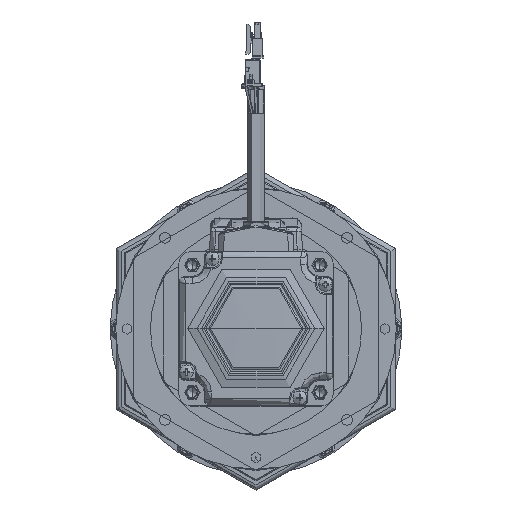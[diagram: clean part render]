
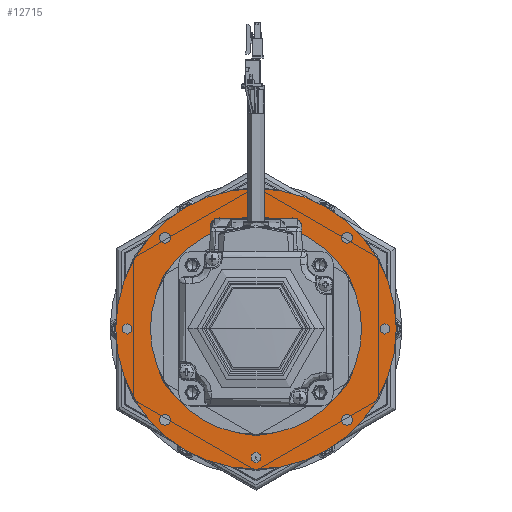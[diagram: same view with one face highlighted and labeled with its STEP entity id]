
A CAD part, top view. The second image highlights one B-rep face of the part: STEP entity #12715.
In plain terms, the highlighted planar face has unit normal (0, 0, 1) as drawn and (1, 0, 0) by its records, which use the part's own axes.
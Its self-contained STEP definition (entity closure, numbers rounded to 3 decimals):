
#10503=CARTESIAN_POINT('',(65.,0.,0.));
#10504=DIRECTION('',(-1.,0.,0.));
#10505=DIRECTION('',(0.,0.,1.));
#10506=AXIS2_PLACEMENT_3D('',#10503,#10504,#10505);
#10508=CARTESIAN_POINT('',(65.,0.,0.));
#10509=DIRECTION('',(-1.,0.,0.));
#10510=DIRECTION('',(0.,0.,-1.));
#10511=AXIS2_PLACEMENT_3D('',#10508,#10509,#10510);
#10513=CARTESIAN_POINT('',(65.,35.355,35.355));
#10514=DIRECTION('',(1.,0.,0.));
#10515=DIRECTION('',(0.,0.,-1.));
#10516=AXIS2_PLACEMENT_3D('',#10513,#10514,#10515);
#10518=CARTESIAN_POINT('',(65.,35.355,35.355));
#10519=DIRECTION('',(1.,0.,0.));
#10520=DIRECTION('',(0.,0.,1.));
#10521=AXIS2_PLACEMENT_3D('',#10518,#10519,#10520);
#10523=CARTESIAN_POINT('',(65.,0.,50.));
#10524=DIRECTION('',(1.,0.,0.));
#10525=DIRECTION('',(0.,0.,-1.));
#10526=AXIS2_PLACEMENT_3D('',#10523,#10524,#10525);
#10528=CARTESIAN_POINT('',(65.,0.,50.));
#10529=DIRECTION('',(1.,0.,0.));
#10530=DIRECTION('',(0.,0.,1.));
#10531=AXIS2_PLACEMENT_3D('',#10528,#10529,#10530);
#10533=CARTESIAN_POINT('',(65.,-35.355,35.355));
#10534=DIRECTION('',(1.,0.,0.));
#10535=DIRECTION('',(0.,0.,-1.));
#10536=AXIS2_PLACEMENT_3D('',#10533,#10534,#10535);
#10538=CARTESIAN_POINT('',(65.,-35.355,35.355));
#10539=DIRECTION('',(1.,0.,0.));
#10540=DIRECTION('',(0.,0.,1.));
#10541=AXIS2_PLACEMENT_3D('',#10538,#10539,#10540);
#10543=CARTESIAN_POINT('',(65.,-50.,0.));
#10544=DIRECTION('',(1.,0.,0.));
#10545=DIRECTION('',(0.,0.,-1.));
#10546=AXIS2_PLACEMENT_3D('',#10543,#10544,#10545);
#10548=CARTESIAN_POINT('',(65.,-50.,0.));
#10549=DIRECTION('',(1.,0.,0.));
#10550=DIRECTION('',(0.,0.,1.));
#10551=AXIS2_PLACEMENT_3D('',#10548,#10549,#10550);
#10553=CARTESIAN_POINT('',(65.,0.,-50.));
#10554=DIRECTION('',(1.,0.,0.));
#10555=DIRECTION('',(0.,0.,-1.));
#10556=AXIS2_PLACEMENT_3D('',#10553,#10554,#10555);
#10558=CARTESIAN_POINT('',(65.,0.,-50.));
#10559=DIRECTION('',(1.,0.,0.));
#10560=DIRECTION('',(0.,0.,1.));
#10561=AXIS2_PLACEMENT_3D('',#10558,#10559,#10560);
#10563=CARTESIAN_POINT('',(65.,35.355,-35.355));
#10564=DIRECTION('',(1.,0.,0.));
#10565=DIRECTION('',(0.,0.,-1.));
#10566=AXIS2_PLACEMENT_3D('',#10563,#10564,#10565);
#10568=CARTESIAN_POINT('',(65.,35.355,-35.355));
#10569=DIRECTION('',(1.,0.,0.));
#10570=DIRECTION('',(0.,0.,1.));
#10571=AXIS2_PLACEMENT_3D('',#10568,#10569,#10570);
#10573=CARTESIAN_POINT('',(65.,50.,0.));
#10574=DIRECTION('',(1.,0.,0.));
#10575=DIRECTION('',(0.,0.,-1.));
#10576=AXIS2_PLACEMENT_3D('',#10573,#10574,#10575);
#10578=CARTESIAN_POINT('',(65.,50.,0.));
#10579=DIRECTION('',(1.,0.,0.));
#10580=DIRECTION('',(0.,0.,1.));
#10581=AXIS2_PLACEMENT_3D('',#10578,#10579,#10580);
#10583=CARTESIAN_POINT('',(65.,0.,0.));
#10584=DIRECTION('',(1.,0.,0.));
#10585=DIRECTION('',(0.,0.,-1.));
#10586=AXIS2_PLACEMENT_3D('',#10583,#10584,#10585);
#10588=CARTESIAN_POINT('',(65.,0.,0.));
#10589=DIRECTION('',(1.,0.,0.));
#10590=DIRECTION('',(0.,0.,1.));
#10591=AXIS2_PLACEMENT_3D('',#10588,#10589,#10590);
#10593=CARTESIAN_POINT('',(65.,-35.355,-35.355));
#10594=DIRECTION('',(1.,0.,0.));
#10595=DIRECTION('',(0.,0.,-1.));
#10596=AXIS2_PLACEMENT_3D('',#10593,#10594,#10595);
#10598=CARTESIAN_POINT('',(65.,-35.355,-35.355));
#10599=DIRECTION('',(1.,0.,0.));
#10600=DIRECTION('',(0.,0.,1.));
#10601=AXIS2_PLACEMENT_3D('',#10598,#10599,#10600);
#11438=CARTESIAN_POINT('',(65.,0.,54.5));
#11439=CARTESIAN_POINT('',(65.,0.,-54.5));
#11440=VERTEX_POINT('',#11438);
#11441=VERTEX_POINT('',#11439);
#11442=CARTESIAN_POINT('',(65.,35.355,33.255));
#11443=CARTESIAN_POINT('',(65.,35.355,37.455));
#11444=VERTEX_POINT('',#11442);
#11445=VERTEX_POINT('',#11443);
#11446=CARTESIAN_POINT('',(65.,0.,47.9));
#11447=CARTESIAN_POINT('',(65.,0.,52.1));
#11448=VERTEX_POINT('',#11446);
#11449=VERTEX_POINT('',#11447);
#11450=CARTESIAN_POINT('',(65.,-35.355,33.255));
#11451=CARTESIAN_POINT('',(65.,-35.355,37.455));
#11452=VERTEX_POINT('',#11450);
#11453=VERTEX_POINT('',#11451);
#11454=CARTESIAN_POINT('',(65.,-50.,-2.1));
#11455=CARTESIAN_POINT('',(65.,-50.,2.1));
#11456=VERTEX_POINT('',#11454);
#11457=VERTEX_POINT('',#11455);
#11458=CARTESIAN_POINT('',(65.,0.,-52.1));
#11459=CARTESIAN_POINT('',(65.,0.,-47.9));
#11460=VERTEX_POINT('',#11458);
#11461=VERTEX_POINT('',#11459);
#11462=CARTESIAN_POINT('',(65.,35.355,-37.455));
#11463=CARTESIAN_POINT('',(65.,35.355,-33.255));
#11464=VERTEX_POINT('',#11462);
#11465=VERTEX_POINT('',#11463);
#11466=CARTESIAN_POINT('',(65.,50.,-2.1));
#11467=CARTESIAN_POINT('',(65.,50.,2.1));
#11468=VERTEX_POINT('',#11466);
#11469=VERTEX_POINT('',#11467);
#11470=CARTESIAN_POINT('',(65.,0.,-41.5));
#11471=CARTESIAN_POINT('',(65.,0.,41.5));
#11472=VERTEX_POINT('',#11470);
#11473=VERTEX_POINT('',#11471);
#11474=CARTESIAN_POINT('',(65.,-35.355,-37.455));
#11475=CARTESIAN_POINT('',(65.,-35.355,-33.255));
#11476=VERTEX_POINT('',#11474);
#11477=VERTEX_POINT('',#11475);
#12651=CARTESIAN_POINT('',(65.,54.5,0.));
#12652=DIRECTION('',(-1.,0.,0.));
#12653=DIRECTION('',(0.,0.,1.));
#12654=AXIS2_PLACEMENT_3D('',#12651,#12652,#12653);
#12655=PLANE('',#12654);
#12656=ORIENTED_EDGE('',*,*,#12641,.T.);
#12658=ORIENTED_EDGE('',*,*,#12657,.T.);
#12659=EDGE_LOOP('',(#12656,#12658));
#12660=FACE_OUTER_BOUND('',#12659,.F.);
#12662=ORIENTED_EDGE('',*,*,#12661,.T.);
#12664=ORIENTED_EDGE('',*,*,#12663,.T.);
#12665=EDGE_LOOP('',(#12662,#12664));
#12666=FACE_BOUND('',#12665,.F.);
#12668=ORIENTED_EDGE('',*,*,#12667,.T.);
#12670=ORIENTED_EDGE('',*,*,#12669,.T.);
#12671=EDGE_LOOP('',(#12668,#12670));
#12672=FACE_BOUND('',#12671,.F.);
#12674=ORIENTED_EDGE('',*,*,#12673,.T.);
#12676=ORIENTED_EDGE('',*,*,#12675,.T.);
#12677=EDGE_LOOP('',(#12674,#12676));
#12678=FACE_BOUND('',#12677,.F.);
#12680=ORIENTED_EDGE('',*,*,#12679,.T.);
#12682=ORIENTED_EDGE('',*,*,#12681,.T.);
#12683=EDGE_LOOP('',(#12680,#12682));
#12684=FACE_BOUND('',#12683,.F.);
#12686=ORIENTED_EDGE('',*,*,#12685,.T.);
#12688=ORIENTED_EDGE('',*,*,#12687,.T.);
#12689=EDGE_LOOP('',(#12686,#12688));
#12690=FACE_BOUND('',#12689,.F.);
#12692=ORIENTED_EDGE('',*,*,#12691,.T.);
#12694=ORIENTED_EDGE('',*,*,#12693,.T.);
#12695=EDGE_LOOP('',(#12692,#12694));
#12696=FACE_BOUND('',#12695,.F.);
#12698=ORIENTED_EDGE('',*,*,#12697,.T.);
#12700=ORIENTED_EDGE('',*,*,#12699,.T.);
#12701=EDGE_LOOP('',(#12698,#12700));
#12702=FACE_BOUND('',#12701,.F.);
#12704=ORIENTED_EDGE('',*,*,#12703,.T.);
#12706=ORIENTED_EDGE('',*,*,#12705,.T.);
#12707=EDGE_LOOP('',(#12704,#12706));
#12708=FACE_BOUND('',#12707,.F.);
#12710=ORIENTED_EDGE('',*,*,#12709,.T.);
#12712=ORIENTED_EDGE('',*,*,#12711,.T.);
#12713=EDGE_LOOP('',(#12710,#12712));
#12714=FACE_BOUND('',#12713,.F.);
#12715=ADVANCED_FACE('',(#12660,#12666,#12672,#12678,#12684,#12690,#12696,
#12702,#12708,#12714),#12655,.F.);
#10507=CIRCLE('',#10506,54.5);
#10512=CIRCLE('',#10511,54.5);
#10517=CIRCLE('',#10516,2.1);
#10522=CIRCLE('',#10521,2.1);
#10527=CIRCLE('',#10526,2.1);
#10532=CIRCLE('',#10531,2.1);
#10537=CIRCLE('',#10536,2.1);
#10542=CIRCLE('',#10541,2.1);
#10547=CIRCLE('',#10546,2.1);
#10552=CIRCLE('',#10551,2.1);
#10557=CIRCLE('',#10556,2.1);
#10562=CIRCLE('',#10561,2.1);
#10567=CIRCLE('',#10566,2.1);
#10572=CIRCLE('',#10571,2.1);
#10577=CIRCLE('',#10576,2.1);
#10582=CIRCLE('',#10581,2.1);
#10587=CIRCLE('',#10586,41.5);
#10592=CIRCLE('',#10591,41.5);
#10597=CIRCLE('',#10596,2.1);
#10602=CIRCLE('',#10601,2.1);
#12641=EDGE_CURVE('',#11440,#11441,#10507,.T.);
#12657=EDGE_CURVE('',#11441,#11440,#10512,.T.);
#12661=EDGE_CURVE('',#11444,#11445,#10517,.T.);
#12663=EDGE_CURVE('',#11445,#11444,#10522,.T.);
#12667=EDGE_CURVE('',#11448,#11449,#10527,.T.);
#12669=EDGE_CURVE('',#11449,#11448,#10532,.T.);
#12673=EDGE_CURVE('',#11452,#11453,#10537,.T.);
#12675=EDGE_CURVE('',#11453,#11452,#10542,.T.);
#12679=EDGE_CURVE('',#11456,#11457,#10547,.T.);
#12681=EDGE_CURVE('',#11457,#11456,#10552,.T.);
#12685=EDGE_CURVE('',#11460,#11461,#10557,.T.);
#12687=EDGE_CURVE('',#11461,#11460,#10562,.T.);
#12691=EDGE_CURVE('',#11464,#11465,#10567,.T.);
#12693=EDGE_CURVE('',#11465,#11464,#10572,.T.);
#12697=EDGE_CURVE('',#11468,#11469,#10577,.T.);
#12699=EDGE_CURVE('',#11469,#11468,#10582,.T.);
#12703=EDGE_CURVE('',#11472,#11473,#10587,.T.);
#12705=EDGE_CURVE('',#11473,#11472,#10592,.T.);
#12709=EDGE_CURVE('',#11476,#11477,#10597,.T.);
#12711=EDGE_CURVE('',#11477,#11476,#10602,.T.);
